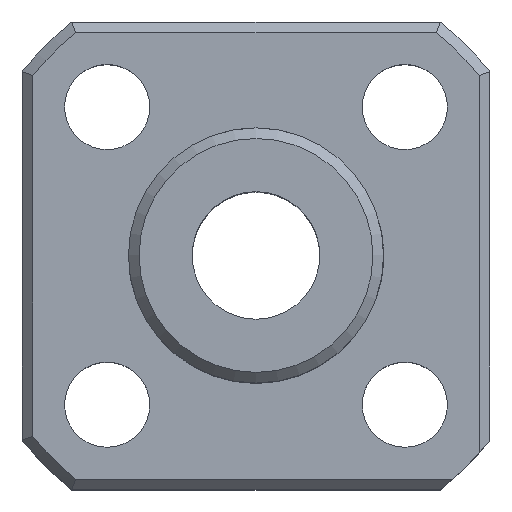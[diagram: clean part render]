
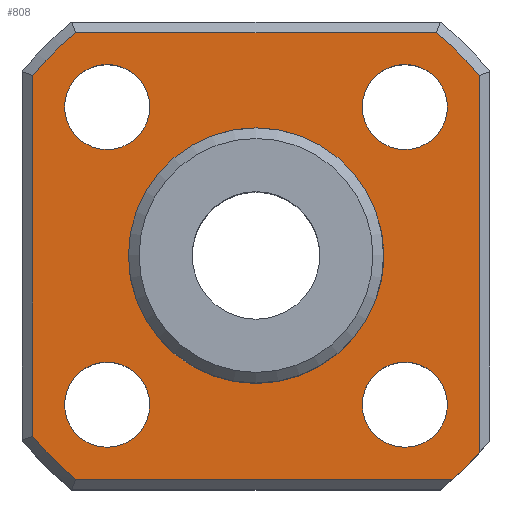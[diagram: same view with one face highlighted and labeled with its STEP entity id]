
A CAD part, top view. The second image highlights one B-rep face of the part: STEP entity #808.
In plain terms, the highlighted planar face has unit normal (0, 0, 1).
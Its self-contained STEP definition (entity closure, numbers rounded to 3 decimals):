
#531=CARTESIAN_POINT('',(9.26,-10.5,6.));
#532=VERTEX_POINT('',#531);
#540=CARTESIAN_POINT('',(-8.485,-10.5,6.));
#541=VERTEX_POINT('',#540);
#542=CARTESIAN_POINT('',(9.26,-10.5,6.));
#543=DIRECTION('',(-1.0,0.0,0.0));
#544=VECTOR('',#543,17.745);
#545=LINE('',#542,#544);
#546=EDGE_CURVE('',#532,#541,#545,.T.);
#571=CARTESIAN_POINT('',(-10.5,-8.485,6.));
#572=VERTEX_POINT('',#571);
#573=CARTESIAN_POINT('',(0.0,0.0,6.));
#574=DIRECTION('',(0.0,0.0,-1.0));
#575=DIRECTION('',(-1.0,0.0,0.0));
#576=AXIS2_PLACEMENT_3D('',#573,#574,#575);
#577=CIRCLE('',#576,13.5);
#578=EDGE_CURVE('',#541,#572,#577,.T.);
#603=CARTESIAN_POINT('',(-10.5,8.485,6.));
#604=VERTEX_POINT('',#603);
#605=CARTESIAN_POINT('',(-10.5,-8.485,6.));
#606=DIRECTION('',(0.0,1.0,0.0));
#607=VECTOR('',#606,16.971);
#608=LINE('',#605,#607);
#609=EDGE_CURVE('',#572,#604,#608,.T.);
#628=CARTESIAN_POINT('',(-8.485,10.5,6.));
#629=VERTEX_POINT('',#628);
#630=CARTESIAN_POINT('',(0.0,0.0,6.));
#631=DIRECTION('',(0.0,0.0,-1.0));
#632=DIRECTION('',(-1.0,0.0,0.0));
#633=AXIS2_PLACEMENT_3D('',#630,#631,#632);
#634=CIRCLE('',#633,13.5);
#635=EDGE_CURVE('',#604,#629,#634,.T.);
#654=CARTESIAN_POINT('',(8.485,10.5,6.));
#655=VERTEX_POINT('',#654);
#656=CARTESIAN_POINT('',(-8.485,10.5,6.));
#657=DIRECTION('',(1.0,0.0,0.0));
#658=VECTOR('',#657,16.971);
#659=LINE('',#656,#658);
#660=EDGE_CURVE('',#629,#655,#659,.T.);
#679=CARTESIAN_POINT('',(10.5,8.485,6.));
#680=VERTEX_POINT('',#679);
#681=CARTESIAN_POINT('',(0.0,0.0,6.));
#682=DIRECTION('',(0.0,0.0,-1.0));
#683=DIRECTION('',(1.0,0.0,0.0));
#684=AXIS2_PLACEMENT_3D('',#681,#682,#683);
#685=CIRCLE('',#684,13.5);
#686=EDGE_CURVE('',#655,#680,#685,.T.);
#705=CARTESIAN_POINT('',(10.5,-9.26,6.));
#706=VERTEX_POINT('',#705);
#723=CARTESIAN_POINT('',(10.5,8.485,6.));
#724=DIRECTION('',(0.0,-1.0,0.0));
#725=VECTOR('',#724,17.745);
#726=LINE('',#723,#725);
#727=EDGE_CURVE('',#680,#706,#726,.T.);
#732=CARTESIAN_POINT('',(0.,0.,6.));
#733=DIRECTION('',(0.0,0.0,1.0));
#734=DIRECTION('',(1.0,0.0,0.0));
#735=AXIS2_PLACEMENT_3D('',#732,#733,#734);
#736=PLANE('',#735);
#737=ORIENTED_EDGE('',*,*,#727,.F.);
#738=ORIENTED_EDGE('',*,*,#686,.F.);
#739=ORIENTED_EDGE('',*,*,#660,.F.);
#740=ORIENTED_EDGE('',*,*,#635,.F.);
#741=ORIENTED_EDGE('',*,*,#609,.F.);
#742=ORIENTED_EDGE('',*,*,#578,.F.);
#743=ORIENTED_EDGE('',*,*,#546,.F.);
#744=CARTESIAN_POINT('',(0.0,0.0,6.));
#745=DIRECTION('',(0.0,0.0,-1.0));
#746=DIRECTION('',(1.0,0.0,0.0));
#747=AXIS2_PLACEMENT_3D('',#744,#745,#746);
#748=CIRCLE('',#747,14.);
#749=EDGE_CURVE('',#706,#532,#748,.T.);
#750=ORIENTED_EDGE('',*,*,#749,.F.);
#751=EDGE_LOOP('',(#737,#738,#739,#740,#741,#742,#743,#750));
#752=FACE_OUTER_BOUND('',#751,.T.);
#753=CARTESIAN_POINT('',(6.,0.,6.));
#754=VERTEX_POINT('',#753);
#755=CARTESIAN_POINT('',(0.0,0.0,6.));
#756=DIRECTION('',(0.0,0.0,-1.0));
#757=DIRECTION('',(-1.0,0.0,0.0));
#758=AXIS2_PLACEMENT_3D('',#755,#756,#757);
#759=CIRCLE('',#758,6.);
#760=EDGE_CURVE('',#754,#754,#759,.T.);
#761=ORIENTED_EDGE('',*,*,#760,.T.);
#762=EDGE_LOOP('',(#761));
#763=FACE_BOUND('',#762,.T.);
#764=CARTESIAN_POINT('',(-9.,7.,6.));
#765=VERTEX_POINT('',#764);
#766=CARTESIAN_POINT('',(-7.,7.,6.));
#767=DIRECTION('',(0.0,0.0,-1.0));
#768=DIRECTION('',(1.0,0.0,0.0));
#769=AXIS2_PLACEMENT_3D('',#766,#767,#768);
#770=CIRCLE('',#769,2.0);
#771=EDGE_CURVE('',#765,#765,#770,.T.);
#772=ORIENTED_EDGE('',*,*,#771,.T.);
#773=EDGE_LOOP('',(#772));
#774=FACE_BOUND('',#773,.T.);
#775=CARTESIAN_POINT('',(5.,7.,6.));
#776=VERTEX_POINT('',#775);
#777=CARTESIAN_POINT('',(7.,7.,6.));
#778=DIRECTION('',(0.0,0.0,-1.0));
#779=DIRECTION('',(1.0,0.0,0.0));
#780=AXIS2_PLACEMENT_3D('',#777,#778,#779);
#781=CIRCLE('',#780,2.0);
#782=EDGE_CURVE('',#776,#776,#781,.T.);
#783=ORIENTED_EDGE('',*,*,#782,.T.);
#784=EDGE_LOOP('',(#783));
#785=FACE_BOUND('',#784,.T.);
#786=CARTESIAN_POINT('',(-9.,-7.,6.));
#787=VERTEX_POINT('',#786);
#788=CARTESIAN_POINT('',(-7.,-7.,6.));
#789=DIRECTION('',(0.0,0.0,-1.0));
#790=DIRECTION('',(1.0,0.0,0.0));
#791=AXIS2_PLACEMENT_3D('',#788,#789,#790);
#792=CIRCLE('',#791,2.0);
#793=EDGE_CURVE('',#787,#787,#792,.T.);
#794=ORIENTED_EDGE('',*,*,#793,.T.);
#795=EDGE_LOOP('',(#794));
#796=FACE_BOUND('',#795,.T.);
#797=CARTESIAN_POINT('',(5.,-7.,6.));
#798=VERTEX_POINT('',#797);
#799=CARTESIAN_POINT('',(7.,-7.,6.));
#800=DIRECTION('',(0.0,0.0,-1.0));
#801=DIRECTION('',(1.0,0.0,0.0));
#802=AXIS2_PLACEMENT_3D('',#799,#800,#801);
#803=CIRCLE('',#802,2.0);
#804=EDGE_CURVE('',#798,#798,#803,.T.);
#805=ORIENTED_EDGE('',*,*,#804,.T.);
#806=EDGE_LOOP('',(#805));
#807=FACE_BOUND('',#806,.T.);
#808=ADVANCED_FACE('',(#752,#763,#774,#785,#796,#807),#736,.T.);
